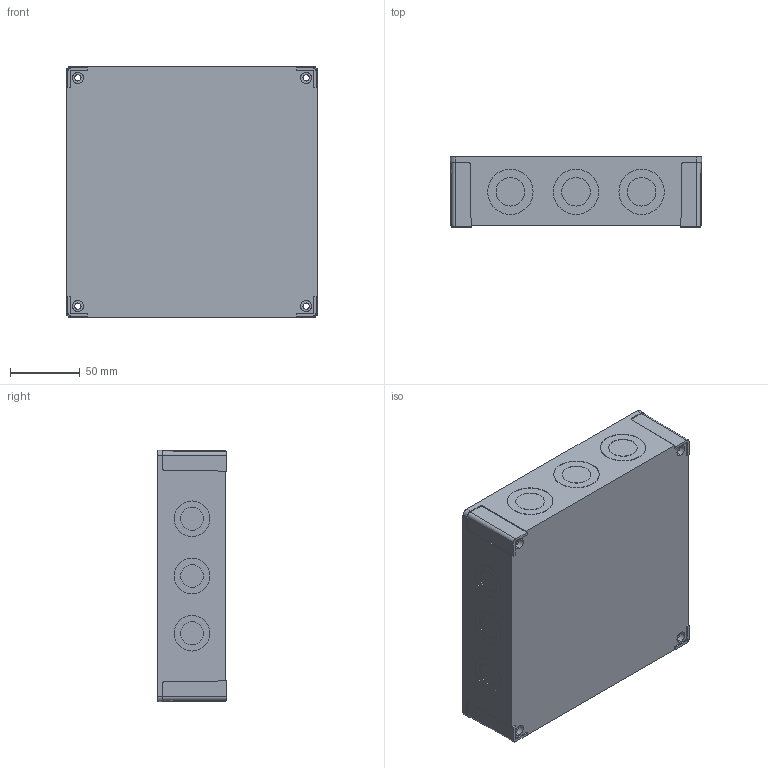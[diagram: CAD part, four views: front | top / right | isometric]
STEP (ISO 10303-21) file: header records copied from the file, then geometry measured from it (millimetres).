
FILE_DESCRIPTION (( 'STEP AP203' ), '1' );
FILE_NAME ('FIBOX_MNXPCM175B.STEP', '2005-06-30T06:36:22', ( ' ' ), ( ' ' ), 'SwSTEP 2.0', 'SolidWorks 2005143', '' );
FILE_SCHEMA (( 'CONFIG_CONTROL_DESIGN' ));
Length unit declared in the file: millimetre
Products named in the file (1): FIBOX_MNXPCM175B
Bounding box: 180.1 x 50 x 180.1 mm (x, y, z)
Volume: 249756.7 mm3; surface area: 139937.2 mm2
Topology: 1 solids, 1 shells, 398 faces, 933 edges, 622 vertices
Faces by surface type: plane 198, cylinder 180, cone 20
Entity records: 11686 total; most frequent: CARTESIAN_POINT 2098, DIRECTION 2091, ORIENTED_EDGE 1866, EDGE_CURVE 933, AXIS2_PLACEMENT_3D 791, VERTEX_POINT 622, VECTOR 509, LINE 509
